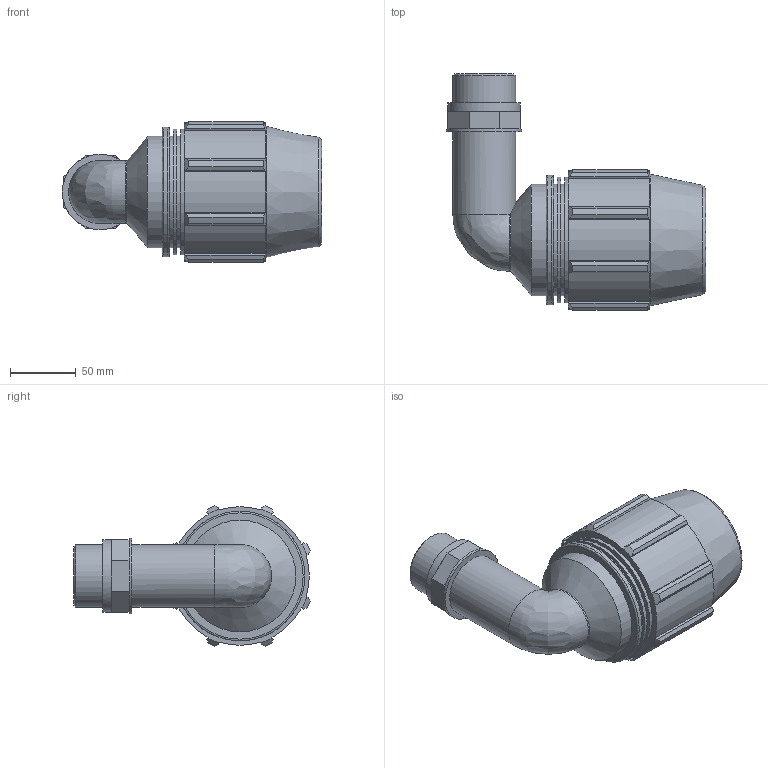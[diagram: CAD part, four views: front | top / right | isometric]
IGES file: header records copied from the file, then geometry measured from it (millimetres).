
Global section: file name: 077700063015_187700063015_0777060630150A.ipt; native system: Autodesk Inventor 2015; preprocessor: unknown; author: KIM; date: 20170622.103116; units: millimetre
Bounding box: 196.68 x 179.16 x 106.32 mm (x, y, z)
Volume: 820437.7 mm3; surface area: 127699.2 mm2
Topology: 1 solids, 1 shells, 125 faces, 320 edges, 205 vertices
Faces by surface type: plane 76, cylinder 27, cone 12, revolution 9, bspline 1
Full cylindrical faces by diameter (mm): 47.803 x2, 54.973 x1, 57.364 x1, 84.75 x3, 95.361 x2, 98.31 x1
